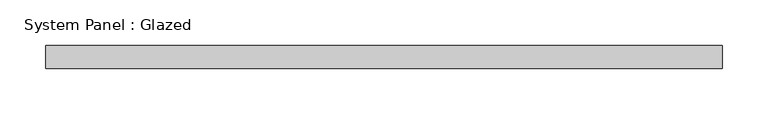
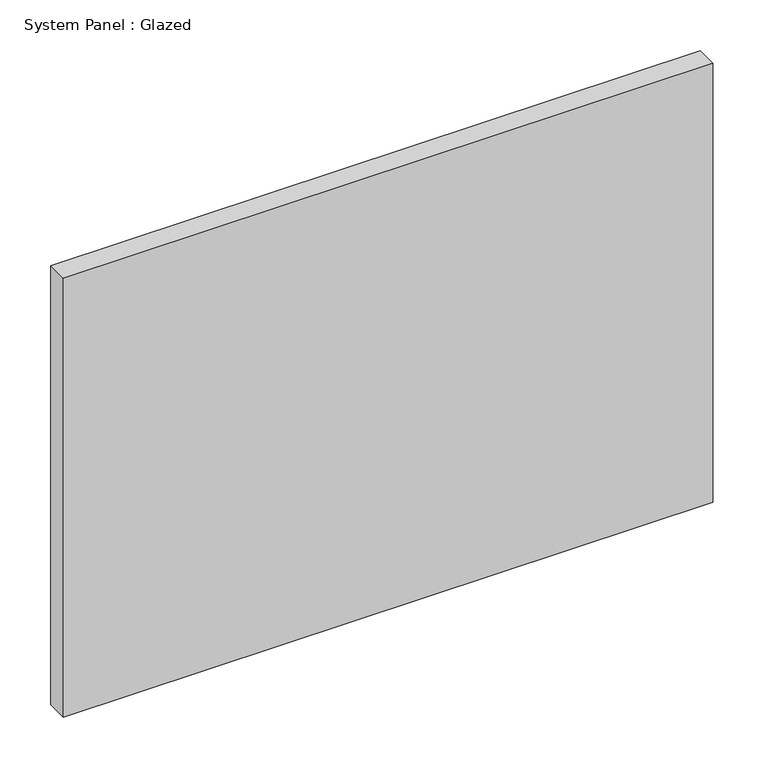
"""IFC4 building model written with IfcOpenShell, lengths in millimetres: plate geometry, System Panel : Glazed."""

from ifc_helpers import new_model, si_unit, origin, origin_with_axes, place, context, project, spatial, polyline, outline, extrude, source, transform, mapped, element, save


def system_panel_glazed_0829237f(model_context):
    return source(origin(), model_context, "Body", "SweptSolid", [
        extrude(outline(polyline([(370.0, 24.5), (-370.0, 24.5), (-370.0, 49.5), (370.0, 49.5), (370.0, 24.5)])), origin_with_axes(), (0.0, 0.0, 1.0), 528.5829413),
    ])


if __name__ == "__main__":
    model = new_model("IFC4")
    model_context = context("Model", 3, world=origin())
    ifc_project = project(units=[si_unit("LENGTHUNIT", "METRE", prefix="MILLI")], contexts=[model_context])
    site = spatial("IfcSite", under=ifc_project)
    building = spatial("IfcBuilding", under=site)
    placement = place(None, origin())
    system_panel_glazed_shape = system_panel_glazed_0829237f(model_context)
    element("IfcPlate", 1, ObjectType="System Panel : Glazed", at=placement, inside=building, context=model_context, shape_type="MappedRepresentation", body=[
        mapped(system_panel_glazed_shape, transform((0.0, 0.0, 0.0), x_axis=(1.0, 0.0, 0.0), y_axis=(0.0, 1.0, 0.0), z_axis=(0.0, 0.0, 1.0))),
    ])
    save(model, "model.ifc")
